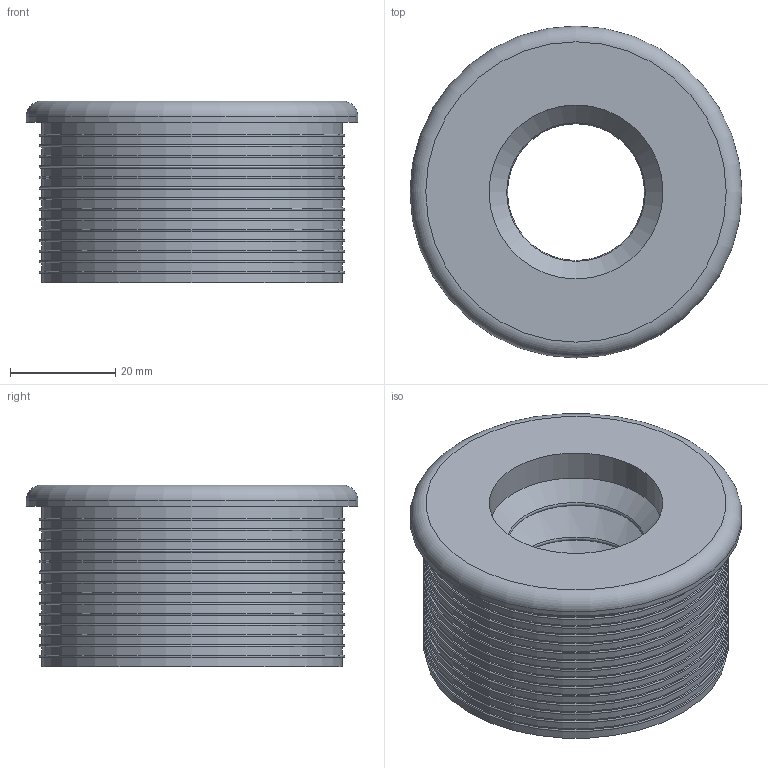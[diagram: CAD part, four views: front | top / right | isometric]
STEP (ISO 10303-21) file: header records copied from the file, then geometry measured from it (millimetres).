
FILE_DESCRIPTION(/* description */ (''),/* implementation_level */ '2;1');
FILE_NAME(/* name */ 'H:\Geberit-Teile\Export\Manschetten 152.6xx\stp\152691.stp',/* time_stamp */ '2016-07-27T14:30:10+02:00',/* author */ ('seihe2'),/* organization */ (''),/* preprocessor_version */ 'ST-DEVELOPER v15.2',/* originating_system */ 'Autodesk Inventor 2014',/* authorisation */ '');
FILE_SCHEMA (('AUTOMOTIVE_DESIGN { 1 0 10303 214 3 1 1 }'));
Length unit declared in the file: millimetre
Products named in the file (1): 152691
Bounding box: 63 x 63 x 34.5 mm (x, y, z)
Volume: 52211.3 mm3; surface area: 23497.3 mm2
Topology: 1 solids, 1 shells, 83 faces, 136 edges, 85 vertices
Faces by surface type: plane 32, torus 24, cylinder 21, cone 6
Full cylindrical faces by diameter (mm): 26 x1, 33 x1, 44 x3, 57 x15, 63 x1
Entity records: 1775 total; most frequent: DIRECTION 334, CARTESIAN_POINT 250, AXIS2_PLACEMENT_3D 167, EDGE_LOOP 166, ORIENTED_EDGE 166, FACE_BOUND 99, STYLED_ITEM 84, CIRCLE 83
